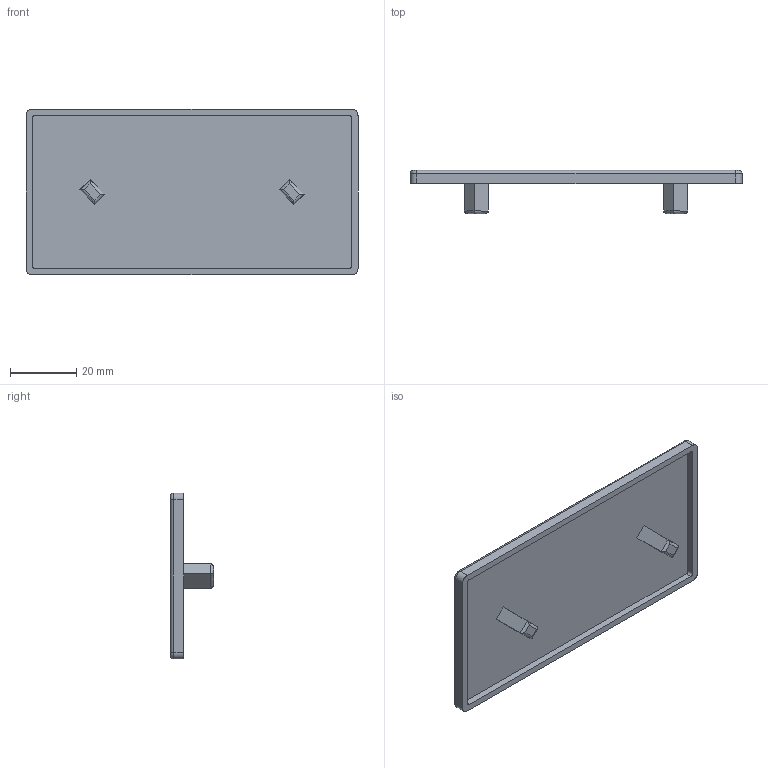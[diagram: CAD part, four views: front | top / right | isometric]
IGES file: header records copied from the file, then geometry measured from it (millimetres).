
Start section: SolidWorks IGES file using analytic representation for surfaces
Global section: file name: C:\Users\sr-d11\Desktop\ホームページ用\IGES\J5C10\J5C10.IGS; native system: SolidWorks 2014; preprocessor: SolidWorks 2014; author: sr-d11; date: 180829.132629; units: millimetre
Bounding box: 100 x 13 x 50 mm (x, y, z)
Surface area: 12056.4 mm2 (no closed solid volume)
Topology: 0 solids, 0 shells, 45 faces, 352 edges, 352 vertices
Faces by surface type: bspline 25, revolution 20
